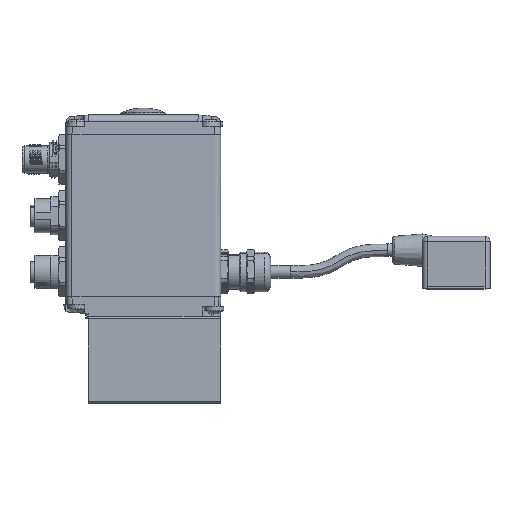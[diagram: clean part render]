
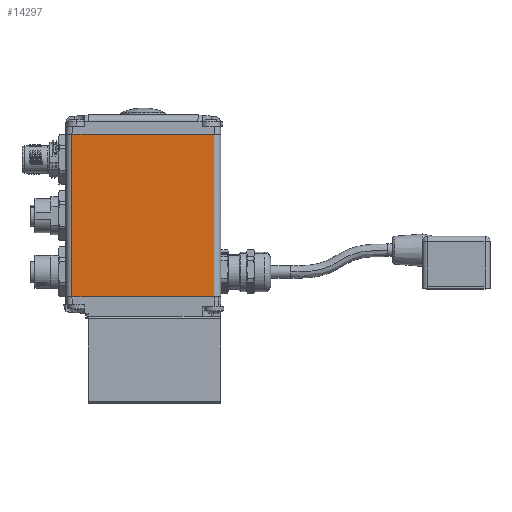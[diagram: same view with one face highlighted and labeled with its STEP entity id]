
A CAD part, top view. The second image highlights one B-rep face of the part: STEP entity #14297.
In plain terms, the highlighted planar face has unit normal (0, 0, 1).
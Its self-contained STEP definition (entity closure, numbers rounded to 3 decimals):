
#11156 = CARTESIAN_POINT ( 'NONE',  ( -59.5, 90.3, 17.65 ) ) ;
#11301 = CARTESIAN_POINT ( 'NONE',  ( -59.5, 25.3, 17.65 ) ) ;
#11697 = CARTESIAN_POINT ( 'NONE',  ( -2.5, 90.3, 17.65 ) ) ;
#11858 = CARTESIAN_POINT ( 'NONE',  ( -2.5, 25.3, 17.65 ) ) ;
#14297 = ADVANCED_FACE ( 'NONE', ( #63370 ), #33018, .F. ) ;
#19236 = LINE ( 'NONE', #96464, #19240 ) ;
#19240 = VECTOR ( 'NONE', #96457, 1000. ) ;
#19394 = LINE ( 'NONE', #96626, #19399 ) ;
#19399 = VECTOR ( 'NONE', #96627, 1000. ) ;
#19536 = LINE ( 'NONE', #96775, #19543 ) ;
#19543 = VECTOR ( 'NONE', #96777, 1000. ) ;
#19554 = LINE ( 'NONE', #96788, #19558 ) ;
#19558 = VECTOR ( 'NONE', #96789, 1000. ) ;
#33018 = PLANE ( 'NONE',  #45779 ) ;
#33026 = CARTESIAN_POINT ( 'NONE',  ( -59.5, 90.3, 17.65 ) ) ;
#33027 = DIRECTION ( 'NONE',  ( 0., 0., -1. ) ) ;
#33028 = DIRECTION ( 'NONE',  ( 1., 0., 0. ) ) ;
#45779 = AXIS2_PLACEMENT_3D ( 'NONE', #33026, #33027, #33028 ) ;
#60728 = EDGE_CURVE ( 'NONE', #90478, #90266, #19236, .T. ) ;
#60785 = EDGE_CURVE ( 'NONE', #90417, #90478, #19394, .T. ) ;
#60836 = EDGE_CURVE ( 'NONE', #90417, #90209, #19536, .T. ) ;
#60842 = EDGE_CURVE ( 'NONE', #90209, #90266, #19554, .T. ) ;
#61495 = EDGE_LOOP ( 'NONE', ( #90854, #90855, #90856, #90857 ) ) ;
#63370 = FACE_OUTER_BOUND ( 'NONE', #61495, .T. ) ;
#90209 = VERTEX_POINT ( 'NONE', #11156 ) ;
#90266 = VERTEX_POINT ( 'NONE', #11301 ) ;
#90417 = VERTEX_POINT ( 'NONE', #11697 ) ;
#90478 = VERTEX_POINT ( 'NONE', #11858 ) ;
#90854 = ORIENTED_EDGE ( 'NONE', *, *, #60728, .F. ) ;
#90855 = ORIENTED_EDGE ( 'NONE', *, *, #60785, .F. ) ;
#90856 = ORIENTED_EDGE ( 'NONE', *, *, #60836, .T. ) ;
#90857 = ORIENTED_EDGE ( 'NONE', *, *, #60842, .T. ) ;
#96457 = DIRECTION ( 'NONE',  ( -1., 0., 0. ) ) ;
#96464 = CARTESIAN_POINT ( 'NONE',  ( -59.5, 25.3, 17.65 ) ) ;
#96626 = CARTESIAN_POINT ( 'NONE',  ( -2.5, 90.3, 17.65 ) ) ;
#96627 = DIRECTION ( 'NONE',  ( 0., -1., 0. ) ) ;
#96775 = CARTESIAN_POINT ( 'NONE',  ( -59.5, 90.3, 17.65 ) ) ;
#96777 = DIRECTION ( 'NONE',  ( -1., 0., 0. ) ) ;
#96788 = CARTESIAN_POINT ( 'NONE',  ( -59.5, 90.3, 17.65 ) ) ;
#96789 = DIRECTION ( 'NONE',  ( 0., -1., 0. ) ) ;
